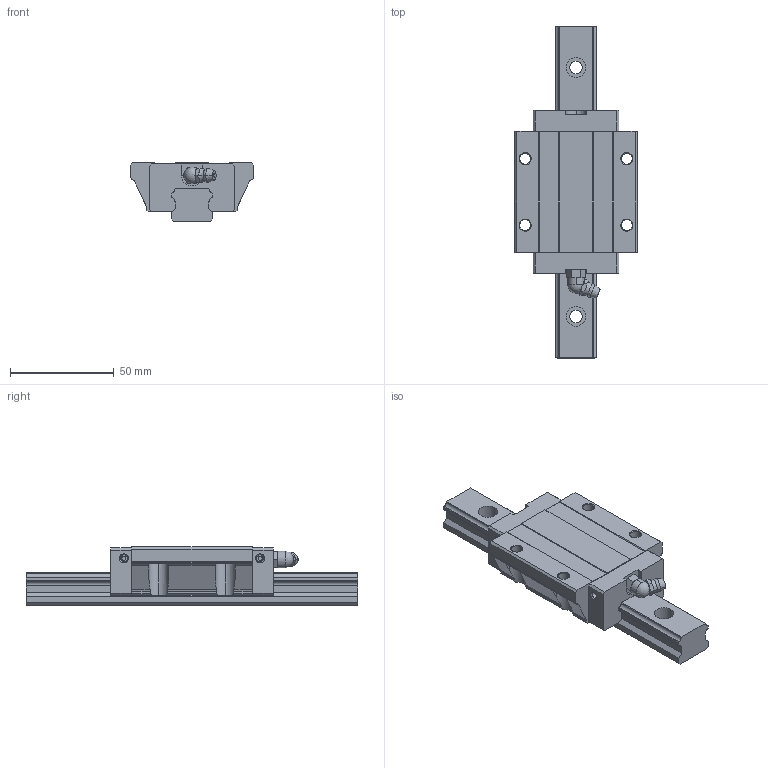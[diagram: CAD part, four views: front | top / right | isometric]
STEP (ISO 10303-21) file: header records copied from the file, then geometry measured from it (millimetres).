
FILE_DESCRIPTION((''),'1');
FILE_NAME(' ',' ',(''),(''),'ACIS Interop R16','Kubotek KeyCreator V6.5.2 (0407)',' ');
FILE_SCHEMA(('CONFIG_CONTROL_DESIGN'));
Length unit declared in the file: millimetre
Products named in the file (3): 1; 2; 3
Bounding box: 59 x 160 x 28 mm (x, y, z)
Volume: 114839.6 mm3; surface area: 30105.1 mm2
Topology: 3 solids, 3 shells, 251 faces, 677 edges, 445 vertices
Faces by surface type: plane 130, cylinder 88, cone 18, torus 10, sphere 3, bspline 2
Entity records: 8268 total; most frequent: CARTESIAN_POINT 1626, DIRECTION 1404, ORIENTED_EDGE 1350, EDGE_CURVE 675, AXIS2_PLACEMENT_3D 505, VERTEX_POINT 445, LINE 394, VECTOR 394
